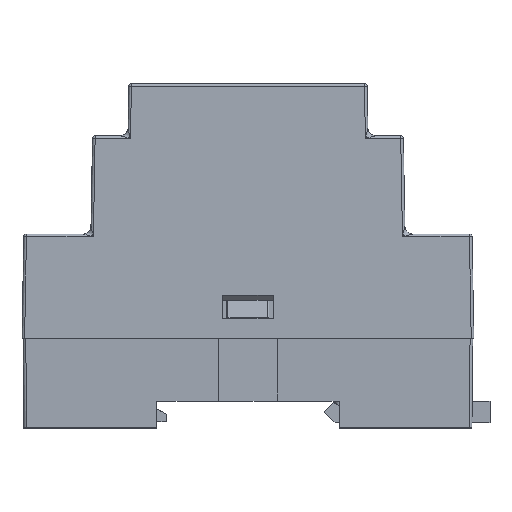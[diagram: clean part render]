
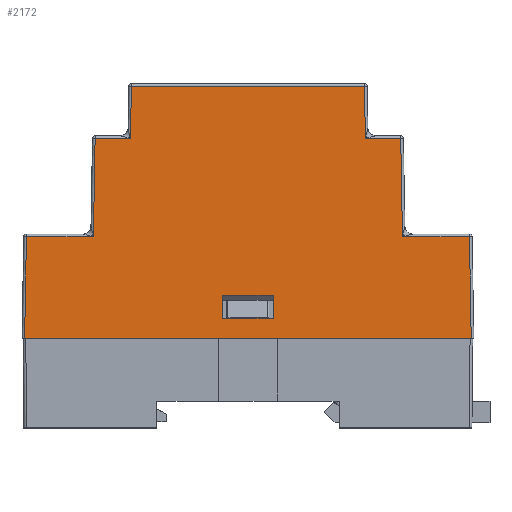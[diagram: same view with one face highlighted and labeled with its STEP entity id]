
A CAD part, top view. The second image highlights one B-rep face of the part: STEP entity #2172.
In plain terms, the highlighted planar face has unit normal (0, 0.009, 1).
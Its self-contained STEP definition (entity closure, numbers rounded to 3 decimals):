
#162 = DIRECTION ( 'NONE',  ( 0., -1., 0.009 ) ) ;
#348 = LINE ( 'NONE', #15807, #7862 ) ;
#798 = EDGE_CURVE ( 'NONE', #10920, #2055, #19263, .T. ) ;
#966 = LINE ( 'NONE', #27839, #2955 ) ;
#1003 = VERTEX_POINT ( 'NONE', #24586 ) ;
#1328 = ORIENTED_EDGE ( 'NONE', *, *, #8084, .T. ) ;
#1476 = CARTESIAN_POINT ( 'NONE',  ( 22.182, 48.004, 17.331 ) ) ;
#1853 = EDGE_CURVE ( 'NONE', #19517, #3733, #25803, .T. ) ;
#1864 = DIRECTION ( 'NONE',  ( 0., -1., 0.009 ) ) ;
#1897 = ORIENTED_EDGE ( 'NONE', *, *, #14415, .T. ) ;
#1934 = CARTESIAN_POINT ( 'NONE',  ( 42.161, 19.404, 17.581 ) ) ;
#2055 = VERTEX_POINT ( 'NONE', #21828 ) ;
#2141 = AXIS2_PLACEMENT_3D ( 'NONE', #13765, #22396, #162 ) ;
#2172 = ADVANCED_FACE ( 'NONE', ( #9374, #24387 ), #15895, .T. ) ;
#2505 = VECTOR ( 'NONE', #1864, 1000. ) ;
#2627 = DIRECTION ( 'NONE',  ( -0.017, -1., 0.009 ) ) ;
#2886 = ORIENTED_EDGE ( 'NONE', *, *, #8900, .T. ) ;
#2955 = VECTOR ( 'NONE', #25434, 1000. ) ;
#3733 = VERTEX_POINT ( 'NONE', #15129 ) ;
#3978 = ORIENTED_EDGE ( 'NONE', *, *, #18155, .T. ) ;
#3984 = VERTEX_POINT ( 'NONE', #18801 ) ;
#3999 = LINE ( 'NONE', #14899, #2505 ) ;
#4294 = DIRECTION ( 'NONE',  ( -1., 0., 0. ) ) ;
#4373 = CARTESIAN_POINT ( 'NONE',  ( 4.8, 3.9, 17.716 ) ) ;
#4499 = DIRECTION ( 'NONE',  ( -0.017, 1., -0.009 ) ) ;
#4696 = VECTOR ( 'NONE', #10189, 1000. ) ;
#5248 = LINE ( 'NONE', #7364, #23710 ) ;
#5532 = LINE ( 'NONE', #16160, #23202 ) ;
#6053 = CARTESIAN_POINT ( 'NONE',  ( -43., 19.404, 17.581 ) ) ;
#6224 = VECTOR ( 'NONE', #22926, 1000. ) ;
#6950 = EDGE_CURVE ( 'NONE', #21398, #23357, #9810, .T. ) ;
#7284 = CARTESIAN_POINT ( 'NONE',  ( -23.026, -0.349, 17.753 ) ) ;
#7364 = CARTESIAN_POINT ( 'NONE',  ( 42.474, 1.492, 17.737 ) ) ;
#7626 = EDGE_CURVE ( 'NONE', #18855, #3984, #23183, .T. ) ;
#7721 = VERTEX_POINT ( 'NONE', #23739 ) ;
#7862 = VECTOR ( 'NONE', #2627, 1000. ) ;
#7995 = DIRECTION ( 'NONE',  ( -0.017, 1., -0.009 ) ) ;
#8084 = EDGE_CURVE ( 'NONE', #3984, #13760, #27671, .T. ) ;
#8900 = EDGE_CURVE ( 'NONE', #13760, #12124, #14296, .T. ) ;
#8930 = LINE ( 'NONE', #15593, #26962 ) ;
#9035 = ORIENTED_EDGE ( 'NONE', *, *, #9153, .T. ) ;
#9106 = CARTESIAN_POINT ( 'NONE',  ( -29.411, 19.404, 17.581 ) ) ;
#9153 = EDGE_CURVE ( 'NONE', #12124, #15051, #23900, .T. ) ;
#9374 = FACE_BOUND ( 'NONE', #20091, .T. ) ;
#9810 = LINE ( 'NONE', #19116, #15642 ) ;
#10189 = DIRECTION ( 'NONE',  ( 1., 0., 0. ) ) ;
#10404 = CARTESIAN_POINT ( 'NONE',  ( 29.728, 1.269, 17.739 ) ) ;
#10920 = VERTEX_POINT ( 'NONE', #14979 ) ;
#11777 = EDGE_CURVE ( 'NONE', #3733, #10920, #5532, .T. ) ;
#12124 = VERTEX_POINT ( 'NONE', #26036 ) ;
#12913 = DIRECTION ( 'NONE',  ( -1., 0., 0. ) ) ;
#12964 = VECTOR ( 'NONE', #7995, 1000. ) ;
#13045 = DIRECTION ( 'NONE',  ( -1., 0., 0. ) ) ;
#13095 = EDGE_LOOP ( 'NONE', ( #25168, #1897, #27661, #1328, #2886, #9035, #21097, #23917, #23011, #27382, #24114, #25858 ) ) ;
#13273 = CARTESIAN_POINT ( 'NONE',  ( 23., 1.152, 17.74 ) ) ;
#13490 = VECTOR ( 'NONE', #4499, 1000. ) ;
#13602 = EDGE_CURVE ( 'NONE', #19526, #19517, #348, .T. ) ;
#13760 = VERTEX_POINT ( 'NONE', #16324 ) ;
#13765 = CARTESIAN_POINT ( 'NONE',  ( -43., 0., 17.75 ) ) ;
#14296 = LINE ( 'NONE', #18685, #6224 ) ;
#14415 = EDGE_CURVE ( 'NONE', #2055, #18855, #5248, .T. ) ;
#14619 = VERTEX_POINT ( 'NONE', #4373 ) ;
#14899 = CARTESIAN_POINT ( 'NONE',  ( 4.8, 0., 17.75 ) ) ;
#14912 = CARTESIAN_POINT ( 'NONE',  ( -43., 19.404, 17.581 ) ) ;
#14979 = CARTESIAN_POINT ( 'NONE',  ( -42.5, 0., 17.75 ) ) ;
#15051 = VERTEX_POINT ( 'NONE', #1476 ) ;
#15129 = CARTESIAN_POINT ( 'NONE',  ( -42.161, 19.404, 17.581 ) ) ;
#15593 = CARTESIAN_POINT ( 'NONE',  ( -43., 3.9, 17.716 ) ) ;
#15642 = VECTOR ( 'NONE', #16200, 1000. ) ;
#15807 = CARTESIAN_POINT ( 'NONE',  ( -29.754, -0.231, 17.752 ) ) ;
#15895 = PLANE ( 'NONE',  #2141 ) ;
#16014 = DIRECTION ( 'NONE',  ( -0.017, 1., -0.009 ) ) ;
#16061 = ORIENTED_EDGE ( 'NONE', *, *, #20172, .T. ) ;
#16160 = CARTESIAN_POINT ( 'NONE',  ( -42.5, -0.009, 17.75 ) ) ;
#16200 = DIRECTION ( 'NONE',  ( 1., 0., 0. ) ) ;
#16324 = CARTESIAN_POINT ( 'NONE',  ( 29.085, 38.104, 17.417 ) ) ;
#16852 = CARTESIAN_POINT ( 'NONE',  ( -43., 0., 17.75 ) ) ;
#16902 = LINE ( 'NONE', #19587, #26992 ) ;
#17460 = EDGE_CURVE ( 'NONE', #1003, #21398, #26324, .T. ) ;
#17835 = CARTESIAN_POINT ( 'NONE',  ( -4.8, 0., 17.75 ) ) ;
#17913 = LINE ( 'NONE', #7284, #19351 ) ;
#18155 = EDGE_CURVE ( 'NONE', #23357, #14619, #3999, .T. ) ;
#18186 = CARTESIAN_POINT ( 'NONE',  ( -4.8, 8.291, 17.678 ) ) ;
#18403 = VECTOR ( 'NONE', #25441, 1000. ) ;
#18599 = CARTESIAN_POINT ( 'NONE',  ( -22.355, 38.104, 17.417 ) ) ;
#18654 = EDGE_CURVE ( 'NONE', #21433, #19526, #966, .T. ) ;
#18685 = CARTESIAN_POINT ( 'NONE',  ( -43., 38.104, 17.417 ) ) ;
#18801 = CARTESIAN_POINT ( 'NONE',  ( 29.411, 19.404, 17.581 ) ) ;
#18855 = VERTEX_POINT ( 'NONE', #1934 ) ;
#19116 = CARTESIAN_POINT ( 'NONE',  ( -43., 8.291, 17.678 ) ) ;
#19263 = LINE ( 'NONE', #16852, #4696 ) ;
#19351 = VECTOR ( 'NONE', #22012, 1000. ) ;
#19517 = VERTEX_POINT ( 'NONE', #9106 ) ;
#19526 = VERTEX_POINT ( 'NONE', #20017 ) ;
#19587 = CARTESIAN_POINT ( 'NONE',  ( -22.673, 48.004, 17.331 ) ) ;
#20017 = CARTESIAN_POINT ( 'NONE',  ( -29.085, 38.104, 17.417 ) ) ;
#20091 = EDGE_LOOP ( 'NONE', ( #21697, #3978, #16061, #26391 ) ) ;
#20172 = EDGE_CURVE ( 'NONE', #14619, #1003, #8930, .T. ) ;
#21097 = ORIENTED_EDGE ( 'NONE', *, *, #25142, .T. ) ;
#21398 = VERTEX_POINT ( 'NONE', #18186 ) ;
#21433 = VERTEX_POINT ( 'NONE', #18599 ) ;
#21697 = ORIENTED_EDGE ( 'NONE', *, *, #6950, .T. ) ;
#21828 = CARTESIAN_POINT ( 'NONE',  ( 42.5, 0., 17.75 ) ) ;
#22012 = DIRECTION ( 'NONE',  ( -0.017, -1., 0.009 ) ) ;
#22365 = DIRECTION ( 'NONE',  ( 0., 1., -0.009 ) ) ;
#22396 = DIRECTION ( 'NONE',  ( 0., 0.009, 1. ) ) ;
#22703 = CARTESIAN_POINT ( 'NONE',  ( 4.8, 8.291, 17.678 ) ) ;
#22926 = DIRECTION ( 'NONE',  ( -1., 0., 0. ) ) ;
#23011 = ORIENTED_EDGE ( 'NONE', *, *, #18654, .T. ) ;
#23183 = LINE ( 'NONE', #6053, #18403 ) ;
#23202 = VECTOR ( 'NONE', #23214, 1000. ) ;
#23214 = DIRECTION ( 'NONE',  ( -0.017, -1., 0.009 ) ) ;
#23303 = EDGE_CURVE ( 'NONE', #7721, #21433, #17913, .T. ) ;
#23357 = VERTEX_POINT ( 'NONE', #22703 ) ;
#23710 = VECTOR ( 'NONE', #16014, 1000. ) ;
#23715 = VECTOR ( 'NONE', #22365, 1000. ) ;
#23739 = CARTESIAN_POINT ( 'NONE',  ( -22.182, 48.004, 17.331 ) ) ;
#23900 = LINE ( 'NONE', #13273, #13490 ) ;
#23917 = ORIENTED_EDGE ( 'NONE', *, *, #23303, .T. ) ;
#24114 = ORIENTED_EDGE ( 'NONE', *, *, #1853, .T. ) ;
#24387 = FACE_OUTER_BOUND ( 'NONE', #13095, .T. ) ;
#24586 = CARTESIAN_POINT ( 'NONE',  ( -4.8, 3.9, 17.716 ) ) ;
#25142 = EDGE_CURVE ( 'NONE', #15051, #7721, #16902, .T. ) ;
#25168 = ORIENTED_EDGE ( 'NONE', *, *, #798, .T. ) ;
#25178 = VECTOR ( 'NONE', #12913, 1000. ) ;
#25434 = DIRECTION ( 'NONE',  ( -1., 0., 0. ) ) ;
#25441 = DIRECTION ( 'NONE',  ( -1., 0., 0. ) ) ;
#25803 = LINE ( 'NONE', #14912, #25178 ) ;
#25858 = ORIENTED_EDGE ( 'NONE', *, *, #11777, .T. ) ;
#26036 = CARTESIAN_POINT ( 'NONE',  ( 22.355, 38.104, 17.417 ) ) ;
#26324 = LINE ( 'NONE', #17835, #23715 ) ;
#26391 = ORIENTED_EDGE ( 'NONE', *, *, #17460, .T. ) ;
#26962 = VECTOR ( 'NONE', #13045, 1000. ) ;
#26992 = VECTOR ( 'NONE', #4294, 1000. ) ;
#27382 = ORIENTED_EDGE ( 'NONE', *, *, #13602, .T. ) ;
#27661 = ORIENTED_EDGE ( 'NONE', *, *, #7626, .T. ) ;
#27671 = LINE ( 'NONE', #10404, #12964 ) ;
#27839 = CARTESIAN_POINT ( 'NONE',  ( -43., 38.104, 17.417 ) ) ;
